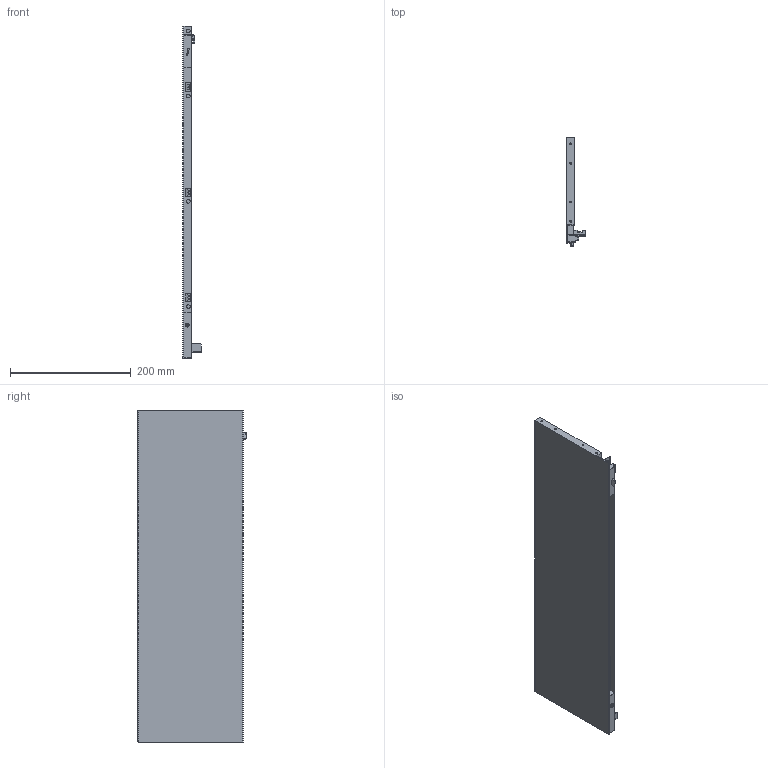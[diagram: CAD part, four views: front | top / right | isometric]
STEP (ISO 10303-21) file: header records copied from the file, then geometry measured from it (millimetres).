
FILE_DESCRIPTION (( 'STEP AP203' ), '1' );
FILE_NAME ('HT135501-L.STEP', '2021-03-16T02:27:24', ( 'Users' ), ( 'Microsoft' ), 'SwSTEP 2.0', 'SolidWorks 2018', '' );
FILE_SCHEMA (( 'CONFIG_CONTROL_DESIGN' ));
Length unit declared in the file: millimetre
Products named in the file (1): HT135501-L
Bounding box: 31.3 x 179 x 549 mm (x, y, z)
Volume: 1077196.1 mm3; surface area: 238054 mm2
Topology: 1 solids, 8 shells, 408 faces, 1031 edges, 641 vertices
Faces by surface type: plane 201, cylinder 143, torus 29, bspline 23, cone 6, sphere 6
Entity records: 12714 total; most frequent: CARTESIAN_POINT 2978, ORIENTED_EDGE 2044, DIRECTION 1979, EDGE_CURVE 1022, AXIS2_PLACEMENT_3D 674, VERTEX_POINT 641, VECTOR 631, LINE 631
